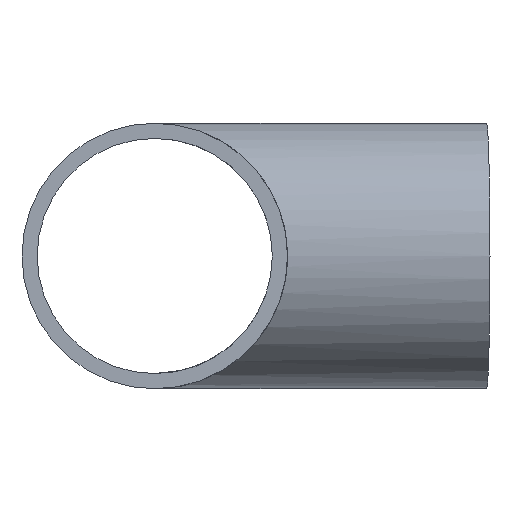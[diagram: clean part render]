
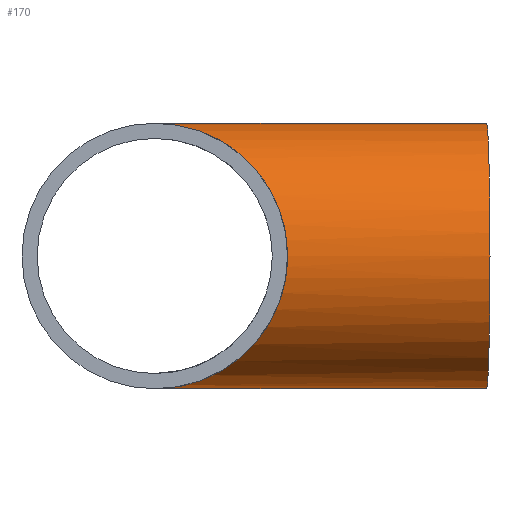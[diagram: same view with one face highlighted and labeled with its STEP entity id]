
A CAD part, front view. The second image highlights one B-rep face of the part: STEP entity #170.
In plain terms, the highlighted cylindrical face has radius 28 mm (diameter 56 mm), a full revolution.
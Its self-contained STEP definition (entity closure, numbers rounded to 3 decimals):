
#16=ELLIPSE($,#191,39.09,28.);
#17=ELLIPSE($,#192,40.127,28.);
#24=CYLINDRICAL_SURFACE($,#200,28.);
#37=FACE_BOUND($,#73,.T.);
#52=FACE_OUTER_BOUND($,#72,.T.);
#72=EDGE_LOOP($,(#147,#148));
#73=EDGE_LOOP($,(#149));
#92=CIRCLE($,#201,28.);
#101=VERTEX_POINT($,#288);
#102=VERTEX_POINT($,#289);
#108=VERTEX_POINT($,#305);
#117=EDGE_CURVE($,#101,#102,#16,.T.);
#118=EDGE_CURVE($,#102,#101,#17,.T.);
#124=EDGE_CURVE($,#108,#108,#92,.T.);
#147=ORIENTED_EDGE($,*,*,#117,.F.);
#148=ORIENTED_EDGE($,*,*,#118,.F.);
#149=ORIENTED_EDGE($,*,*,#124,.T.);
#170=ADVANCED_FACE($,(#52,#37),#24,.T.);
#191=AXIS2_PLACEMENT_3D($,#290,#235,#236);
#192=AXIS2_PLACEMENT_3D($,#291,#237,#238);
#200=AXIS2_PLACEMENT_3D($,#304,#253,#254);
#201=AXIS2_PLACEMENT_3D($,#306,#255,#256);
#235=DIRECTION('center_axis',(-0.698,-0.716,0.));
#236=DIRECTION('ref_axis',(0.716,-0.698,0.));
#237=DIRECTION('center_axis',(-0.716,0.698,0.));
#238=DIRECTION('ref_axis',(-0.698,-0.716,0.));
#253=DIRECTION('center_axis',(-1.,-0.026,0.));
#254=DIRECTION('ref_axis',(0.026,-1.,0.));
#255=DIRECTION('center_axis',(-1.,-0.026,0.));
#256=DIRECTION('ref_axis',(0.026,-1.,0.));
#288=CARTESIAN_POINT('',(0.,105.,-28.));
#289=CARTESIAN_POINT('',(0.,105.,28.));
#290=CARTESIAN_POINT('Origin',(0.,105.,0.));
#291=CARTESIAN_POINT('Origin',(0.,105.,0.));
#304=CARTESIAN_POINT('Origin',(69.976,106.832,0.));
#305=CARTESIAN_POINT('',(69.243,134.823,0.));
#306=CARTESIAN_POINT('Origin',(69.976,106.832,0.));
